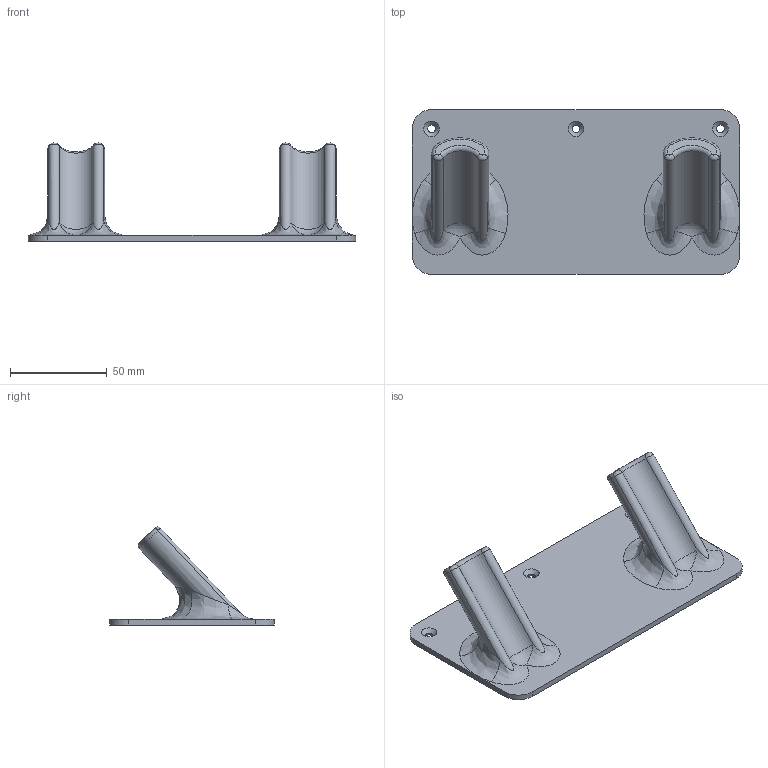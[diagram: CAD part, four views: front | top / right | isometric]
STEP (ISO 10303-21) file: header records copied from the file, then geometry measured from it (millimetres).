
FILE_DESCRIPTION(/* description */ (''),/* implementation_level */ '2;1');
FILE_NAME(/* name */ 'D:\Users\User\Documents\Inventor Projects\ViveWallMount\WallMount.stp',/* time_stamp */ '2016-04-14T17:17:55+02:00',/* author */ ('User'),/* organization */ (''),/* preprocessor_version */ 'ST-DEVELOPER v16.1',/* originating_system */ 'Autodesk Inventor 2016',/* authorisation */ '');
FILE_SCHEMA (('AUTOMOTIVE_DESIGN { 1 0 10303 214 3 1 1 }'));
Length unit declared in the file: millimetre
Products named in the file (1): WallMount
Bounding box: 169.6 x 85.44 x 50.92 mm (x, y, z)
Volume: 85117.7 mm3; surface area: 38377.7 mm2
Topology: 1 solids, 1 shells, 54 faces, 132 edges, 78 vertices
Faces by surface type: cylinder 19, bspline 14, torus 8, plane 8, cone 3, sphere 2
Full cylindrical faces by diameter (mm): 4 x3
Entity records: 2058 total; most frequent: CARTESIAN_POINT 795, DIRECTION 290, ORIENTED_EDGE 238, AXIS2_PLACEMENT_3D 130, EDGE_CURVE 119, VERTEX_POINT 73, CIRCLE 67, EDGE_LOOP 66
